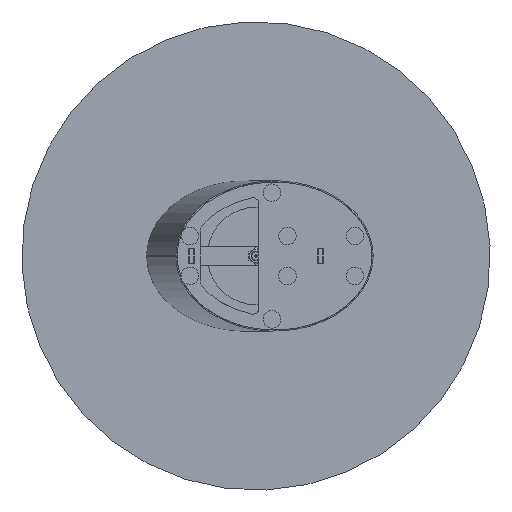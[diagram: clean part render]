
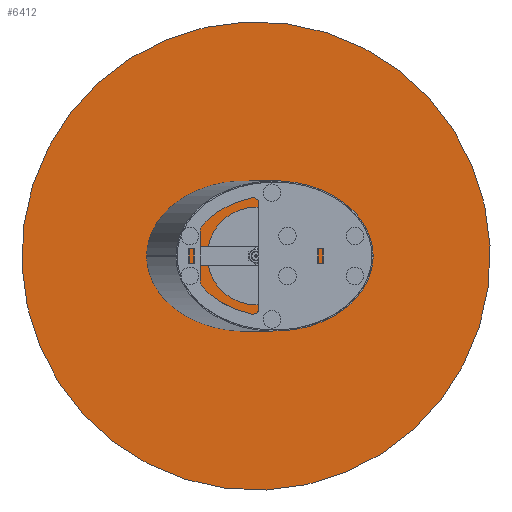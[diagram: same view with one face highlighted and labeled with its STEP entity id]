
A CAD part, front view. The second image highlights one B-rep face of the part: STEP entity #6412.
In plain terms, the highlighted planar face has unit normal (0, -1, 0).
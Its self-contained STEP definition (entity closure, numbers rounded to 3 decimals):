
#296 = CIRCLE ( 'NONE', #7442, 600. ) ;
#453 = DIRECTION ( 'NONE',  ( 0., -1., 0. ) ) ;
#1063 = PLANE ( 'NONE',  #7307 ) ;
#1099 = CARTESIAN_POINT ( 'NONE',  ( 0., 0., -600. ) ) ;
#1146 = DIRECTION ( 'NONE',  ( 0., -1., 0. ) ) ;
#1577 = DIRECTION ( 'NONE',  ( 0., 0., -1. ) ) ;
#1843 = AXIS2_PLACEMENT_3D ( 'NONE', #7989, #5364, #1577 ) ;
#2862 = ORIENTED_EDGE ( 'NONE', *, *, #5456, .T. ) ;
#2956 = CARTESIAN_POINT ( 'NONE',  ( 0., 0., 0. ) ) ;
#3173 = EDGE_CURVE ( 'NONE', #3655, #4211, #3199, .T. ) ;
#3199 = CIRCLE ( 'NONE', #1843, 600. ) ;
#3445 = ORIENTED_EDGE ( 'NONE', *, *, #3173, .T. ) ;
#3597 = DIRECTION ( 'NONE',  ( 0., 0., -1. ) ) ;
#3655 = VERTEX_POINT ( 'NONE', #8460 ) ;
#3750 = EDGE_LOOP ( 'NONE', ( #2862, #3445 ) ) ;
#3767 = CARTESIAN_POINT ( 'NONE',  ( 0., 0., 0. ) ) ;
#4211 = VERTEX_POINT ( 'NONE', #1099 ) ;
#5020 = DIRECTION ( 'NONE',  ( 0., 0., -1. ) ) ;
#5364 = DIRECTION ( 'NONE',  ( 0., -1., 0. ) ) ;
#5456 = EDGE_CURVE ( 'NONE', #4211, #3655, #296, .T. ) ;
#6412 = ADVANCED_FACE ( 'NONE', ( #7602 ), #1063, .T. ) ;
#7307 = AXIS2_PLACEMENT_3D ( 'NONE', #3767, #1146, #5020 ) ;
#7442 = AXIS2_PLACEMENT_3D ( 'NONE', #2956, #453, #3597 ) ;
#7602 = FACE_OUTER_BOUND ( 'NONE', #3750, .T. ) ;
#7989 = CARTESIAN_POINT ( 'NONE',  ( 0., 0., 0. ) ) ;
#8460 = CARTESIAN_POINT ( 'NONE',  ( 0., 0., 600. ) ) ;
